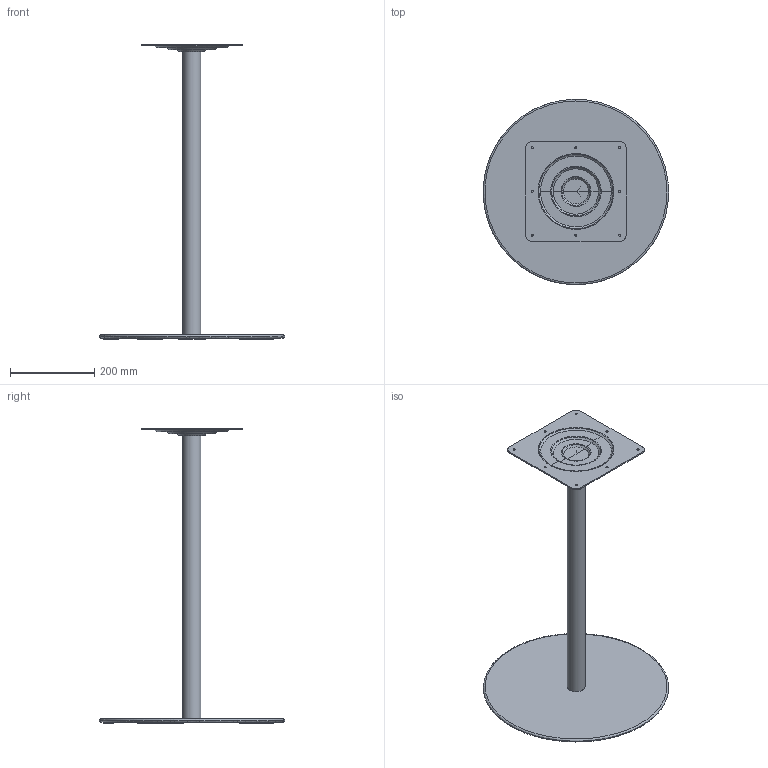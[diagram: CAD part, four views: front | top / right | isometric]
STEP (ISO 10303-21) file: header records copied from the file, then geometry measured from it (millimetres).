
FILE_DESCRIPTION(/* description */ (''),/* implementation_level */ '2;1');
FILE_NAME(/* name */ 'KINOSH~1',/* time_stamp */ '2024-11-15T16:22:11+09:00',/* author */ (''),/* organization */ (''),/* preprocessor_version */ 'ST-DEVELOPER v16.5',/* originating_system */ '',/* authorisation */ '');
FILE_SCHEMA (('AUTOMOTIVE_DESIGN'));
Length unit declared in the file: millimetre
Products named in the file (1): Document
Bounding box: 439.62 x 439.71 x 700 mm (x, y, z)
Volume: 2441753.8 mm3; surface area: 520134.2 mm2
Topology: 1 solids, 1 shells, 103 faces, 234 edges, 139 vertices
Faces by surface type: bspline 94, plane 9
Entity records: 5378 total; most frequent: CARTESIAN_POINT 4084, ORIENTED_EDGE 464, EDGE_CURVE 232, VERTEX_POINT 139, EDGE_LOOP 127, ADVANCED_FACE 103, FACE_OUTER_BOUND 103, B_SPLINE_CURVE_WITH_KNOTS 45
